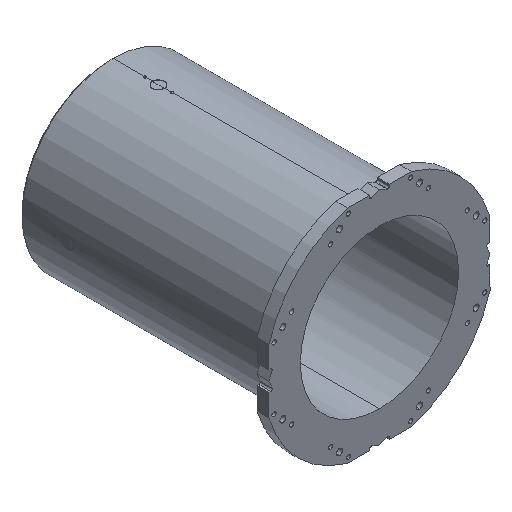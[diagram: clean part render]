
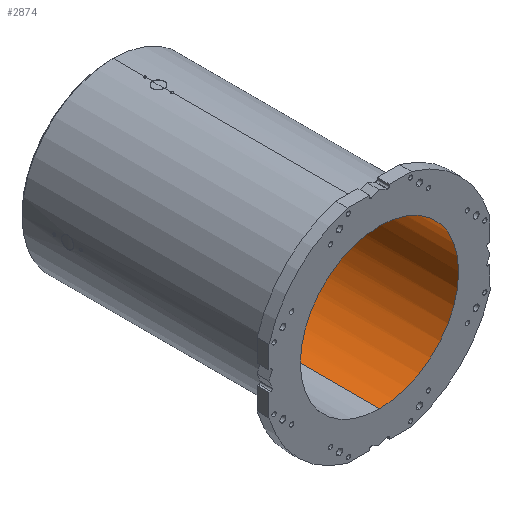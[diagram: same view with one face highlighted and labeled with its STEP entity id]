
A CAD part, isometric view. The second image highlights one B-rep face of the part: STEP entity #2874.
In plain terms, the highlighted cylindrical face has radius 265 mm (diameter 530 mm), a partial arc.
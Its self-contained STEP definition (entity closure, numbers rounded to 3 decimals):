
#243 = CARTESIAN_POINT ( 'NONE',  ( 0., 0., 0. ) ) ;
#882 = VERTEX_POINT ( 'NONE', #1736 ) ;
#1022 = EDGE_LOOP ( 'NONE', ( #12478, #5585, #10612, #13130 ) ) ;
#1402 = CARTESIAN_POINT ( 'NONE',  ( 0., 0., 0. ) ) ;
#1506 = VERTEX_POINT ( 'NONE', #7947 ) ;
#1630 = LINE ( 'NONE', #10605, #5435 ) ;
#1736 = CARTESIAN_POINT ( 'NONE',  ( 0., 863., 265. ) ) ;
#1860 = CIRCLE ( 'NONE', #4431, 265. ) ;
#2512 = DIRECTION ( 'NONE',  ( 0., 1., 0. ) ) ;
#2717 = CARTESIAN_POINT ( 'NONE',  ( 0., 863., -265. ) ) ;
#2874 = ADVANCED_FACE ( 'NONE', ( #10382 ), #4352, .F. ) ;
#3120 = VERTEX_POINT ( 'NONE', #7041 ) ;
#3158 = EDGE_CURVE ( 'NONE', #3120, #882, #1630, .T. ) ;
#3645 = DIRECTION ( 'NONE',  ( 0., 0., 1. ) ) ;
#3754 = CIRCLE ( 'NONE', #12851, 265. ) ;
#3799 = CARTESIAN_POINT ( 'NONE',  ( 0., 0., -265. ) ) ;
#3928 = LINE ( 'NONE', #3799, #5887 ) ;
#4352 = CYLINDRICAL_SURFACE ( 'NONE', #7745, 265. ) ;
#4431 = AXIS2_PLACEMENT_3D ( 'NONE', #12660, #11656, #3645 ) ;
#5046 = EDGE_CURVE ( 'NONE', #1506, #11399, #3928, .T. ) ;
#5324 = EDGE_CURVE ( 'NONE', #882, #11399, #1860, .T. ) ;
#5435 = VECTOR ( 'NONE', #2512, 1000. ) ;
#5585 = ORIENTED_EDGE ( 'NONE', *, *, #12231, .F. ) ;
#5887 = VECTOR ( 'NONE', #6822, 1000. ) ;
#6822 = DIRECTION ( 'NONE',  ( 0., 1., 0. ) ) ;
#7041 = CARTESIAN_POINT ( 'NONE',  ( 0., 0., 265. ) ) ;
#7745 = AXIS2_PLACEMENT_3D ( 'NONE', #1402, #11628, #12561 ) ;
#7947 = CARTESIAN_POINT ( 'NONE',  ( 0., 0., -265. ) ) ;
#10382 = FACE_OUTER_BOUND ( 'NONE', #1022, .T. ) ;
#10605 = CARTESIAN_POINT ( 'NONE',  ( 0., 0., 265. ) ) ;
#10612 = ORIENTED_EDGE ( 'NONE', *, *, #3158, .T. ) ;
#11399 = VERTEX_POINT ( 'NONE', #2717 ) ;
#11533 = DIRECTION ( 'NONE',  ( 0., 0., 1. ) ) ;
#11628 = DIRECTION ( 'NONE',  ( 0., 1., 0. ) ) ;
#11656 = DIRECTION ( 'NONE',  ( 0., 1., 0. ) ) ;
#12231 = EDGE_CURVE ( 'NONE', #3120, #1506, #3754, .T. ) ;
#12478 = ORIENTED_EDGE ( 'NONE', *, *, #5046, .F. ) ;
#12561 = DIRECTION ( 'NONE',  ( 0., 0., 1. ) ) ;
#12594 = DIRECTION ( 'NONE',  ( 0., 1., 0. ) ) ;
#12660 = CARTESIAN_POINT ( 'NONE',  ( 0., 863., 0. ) ) ;
#12851 = AXIS2_PLACEMENT_3D ( 'NONE', #243, #12594, #11533 ) ;
#13130 = ORIENTED_EDGE ( 'NONE', *, *, #5324, .T. ) ;
